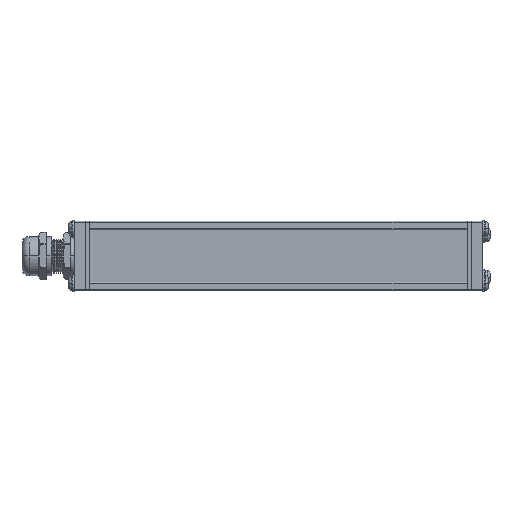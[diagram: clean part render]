
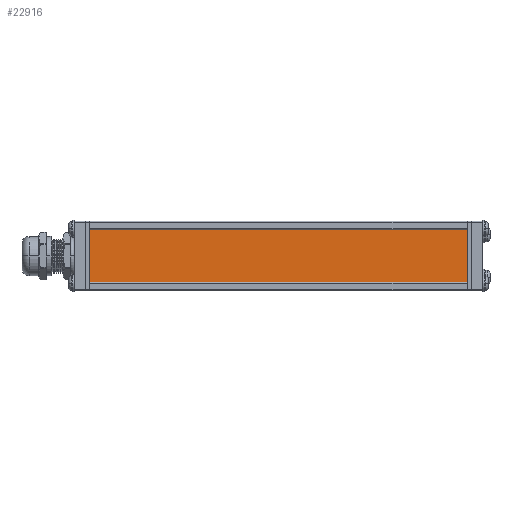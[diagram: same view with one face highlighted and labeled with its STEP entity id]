
A CAD part, top view. The second image highlights one B-rep face of the part: STEP entity #22916.
In plain terms, the highlighted planar face has unit normal (0, 0, 1) as drawn and (0, 1, 0) by its records, which use the part's own axes.
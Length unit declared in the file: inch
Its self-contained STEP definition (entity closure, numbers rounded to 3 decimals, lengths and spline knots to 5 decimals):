
#145 = VECTOR ( 'NONE', #15865, 39.37008 ) ;
#608 = LINE ( 'NONE', #20419, #18579 ) ;
#1130 = VERTEX_POINT ( 'NONE', #21333 ) ;
#1639 = CARTESIAN_POINT ( 'NONE',  ( 2.135, 0.03, 0.344 ) ) ;
#4371 = CARTESIAN_POINT ( 'NONE',  ( 2.135, 0.03, 0.344 ) ) ;
#4772 = LINE ( 'NONE', #1639, #30574 ) ;
#5458 = EDGE_CURVE ( 'NONE', #27616, #17809, #27192, .T. ) ;
#5499 = CARTESIAN_POINT ( 'NONE',  ( 2.135, 0.03, 0.344 ) ) ;
#8495 = CARTESIAN_POINT ( 'NONE',  ( 2.135, 0.03, 0.344 ) ) ;
#9184 = PLANE ( 'NONE',  #21488 ) ;
#10825 = ORIENTED_EDGE ( 'NONE', *, *, #16434, .T. ) ;
#10931 = EDGE_CURVE ( 'NONE', #17809, #1130, #4772, .T. ) ;
#10987 = ORIENTED_EDGE ( 'NONE', *, *, #10931, .F. ) ;
#12452 = EDGE_LOOP ( 'NONE', ( #21762, #10987, #24575, #10825 ) ) ;
#14726 = EDGE_CURVE ( 'NONE', #31926, #1130, #608, .T. ) ;
#15553 = DIRECTION ( 'NONE',  ( 0., 0., 1. ) ) ;
#15865 = DIRECTION ( 'NONE',  ( -1., 0., 0. ) ) ;
#16434 = EDGE_CURVE ( 'NONE', #27616, #31926, #28661, .T. ) ;
#17209 = FACE_OUTER_BOUND ( 'NONE', #12452, .T. ) ;
#17566 = DIRECTION ( 'NONE',  ( 0., 0., 1. ) ) ;
#17809 = VERTEX_POINT ( 'NONE', #8495 ) ;
#18579 = VECTOR ( 'NONE', #17566, 39.37008 ) ;
#20419 = CARTESIAN_POINT ( 'NONE',  ( -2.135, 0.03, 0.344 ) ) ;
#21333 = CARTESIAN_POINT ( 'NONE',  ( -2.135, 0.03, 0.344 ) ) ;
#21488 = AXIS2_PLACEMENT_3D ( 'NONE', #4371, #24130, #29368 ) ;
#21709 = VECTOR ( 'NONE', #15553, 39.37008 ) ;
#21762 = ORIENTED_EDGE ( 'NONE', *, *, #14726, .T. ) ;
#22916 = ADVANCED_FACE ( 'NONE', ( #17209 ), #9184, .F. ) ;
#23698 = DIRECTION ( 'NONE',  ( -1., 0., 0. ) ) ;
#24130 = DIRECTION ( 'NONE',  ( 0., -1., 0. ) ) ;
#24245 = CARTESIAN_POINT ( 'NONE',  ( -2.135, 0.03, -0.344 ) ) ;
#24575 = ORIENTED_EDGE ( 'NONE', *, *, #5458, .F. ) ;
#25916 = CARTESIAN_POINT ( 'NONE',  ( 2.135, 0.03, -0.344 ) ) ;
#27192 = LINE ( 'NONE', #5499, #21709 ) ;
#27616 = VERTEX_POINT ( 'NONE', #30100 ) ;
#28661 = LINE ( 'NONE', #25916, #145 ) ;
#29368 = DIRECTION ( 'NONE',  ( 0., 0., -1. ) ) ;
#30100 = CARTESIAN_POINT ( 'NONE',  ( 2.135, 0.03, -0.344 ) ) ;
#30574 = VECTOR ( 'NONE', #23698, 39.37008 ) ;
#31926 = VERTEX_POINT ( 'NONE', #24245 ) ;
